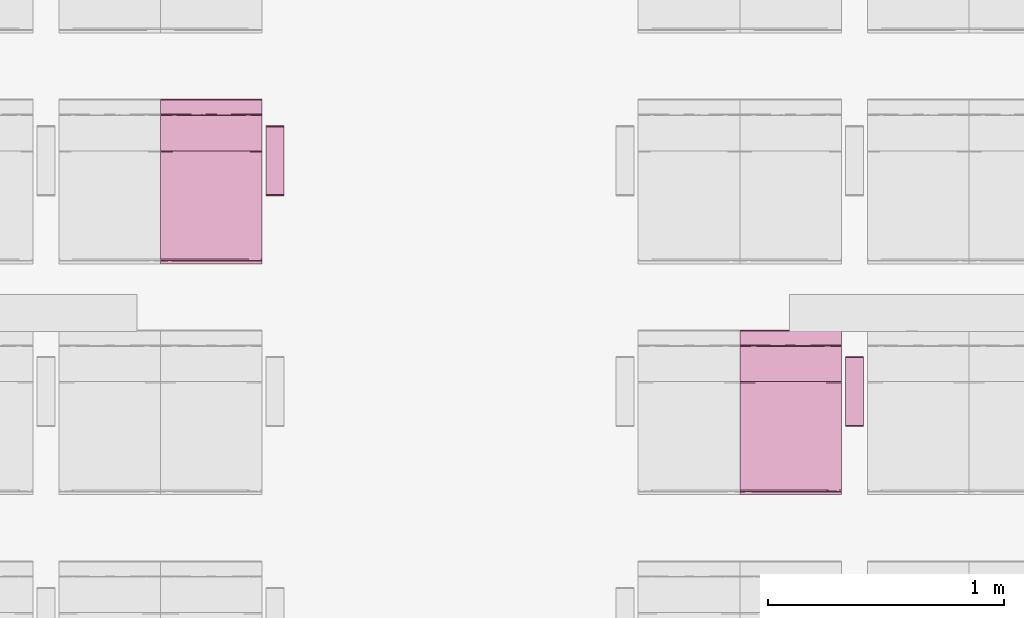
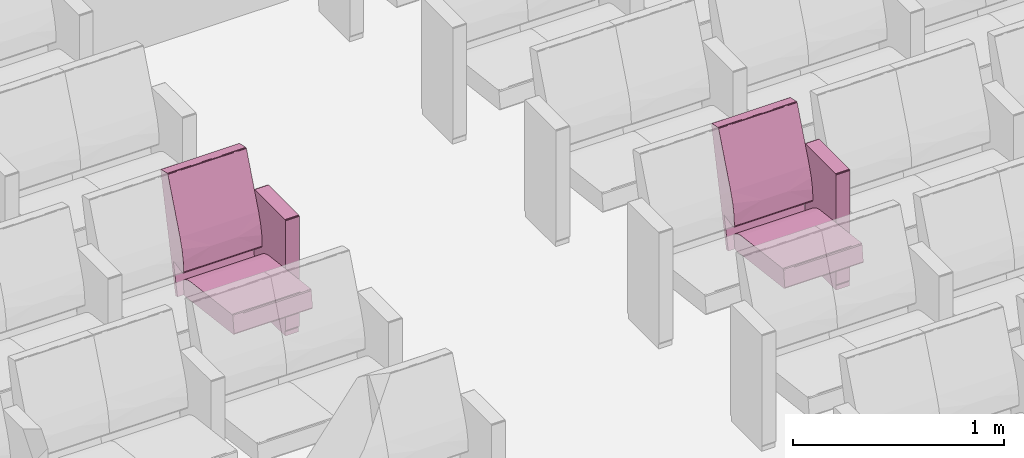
# One storey, part 112 of 155: 2 furnishings.
"""IFC2X3 building model written with IfcOpenShell, lengths in metres."""

import ifcopenshell
import ifcopenshell.guid

model = None  # the IFC model being written
_history = None  # IfcOwnerHistory: only IFC2X3 demands one
_inside = {}  # id of a spatial element -> (the spatial element, [elements in it])
_under = {}  # id of a project, library or spatial element -> (it, [spatial elements below it])
_declared = {}  # id of a project -> (the project, [libraries it declares])
_typed = {}  # id of a type object -> (the type object, [elements of that type])
_made_of = {}  # id of a material, layer set ... -> (it, [elements and type objects made of it])


def new_model(schema):
    """Start an empty IFC model of exactly this schema.

    Asked for "IFC4X3", IfcOpenShell would pick the latest addendum, in which some entities
    have other attributes; the version numbers below select the first issue.
    IFC2X3 requires an IfcOwnerHistory on every rooted entity: one is made here for all.
    """
    global model, _history
    if schema == "IFC4X3":
        model = ifcopenshell.file(schema_version=(4, 3, 0, 0))
    else:
        model = ifcopenshell.file(schema=schema)
    _inside.clear()
    _under.clear()
    _declared.clear()
    _typed.clear()
    _made_of.clear()
    _history = None
    if model.schema == "IFC2X3":
        org = make("IfcOrganization", Name="unknown")
        user = make(
            "IfcPersonAndOrganization",
            ThePerson=make("IfcPerson", FamilyName="unknown"),
            TheOrganization=org,
        )
        app = make(
            "IfcApplication",
            ApplicationDeveloper=org,
            Version="unknown",
            ApplicationFullName="unknown",
            ApplicationIdentifier="unknown",
        )
        _history = make(
            "IfcOwnerHistory",
            OwningUser=user,
            OwningApplication=app,
            ChangeAction="ADDED",
            CreationDate=0,
        )
    return model


def make(cls, **values):
    """One entity of the class cls with the attributes given. An attribute that is None is left unset."""
    return model.create_entity(
        cls, **{name: value for name, value in values.items() if value is not None}
    )


def entity(cls, *values):
    """Any entity or typed value of the class cls, its attributes in the order of the schema. None: left unset."""
    e = model.create_entity(cls)
    for i, value in enumerate(values):
        if value is not None:
            e[i] = value
    return e


def rooted(cls, **values):
    """An entity with a GlobalId (a new one), such as an element, a storey or a relation."""
    return make(cls, GlobalId=ifcopenshell.guid.new(), OwnerHistory=_history, **values)


def si_unit(unit_type, name, prefix=None):
    """IfcSIUnit, for example si_unit("LENGTHUNIT", "METRE", prefix="MILLI")."""
    return make("IfcSIUnit", UnitType=unit_type, Prefix=prefix, Name=name)


def converted_unit(unit_type, name, factor, base, dimensions=None, offset=None):
    """IfcConversionBasedUnit, such as the inch: factor (a typed value) times the base unit."""
    return make(
        "IfcConversionBasedUnit"
        if offset is None
        else "IfcConversionBasedUnitWithOffset",
        ConversionOffset=offset,
        Dimensions=None
        if dimensions is None
        else entity("IfcDimensionalExponents", *dimensions),
        UnitType=unit_type,
        Name=name,
        ConversionFactor=make(
            "IfcMeasureWithUnit", ValueComponent=factor, UnitComponent=base
        ),
    )


def derived_unit(unit_type, elements):
    """IfcDerivedUnit: a product of units, each with its exponent."""
    return make(
        "IfcDerivedUnit",
        Elements=[
            make("IfcDerivedUnitElement", Unit=unit, Exponent=power)
            for unit, power in elements
        ],
        UnitType=unit_type,
    )


def assignment(units):
    """IfcUnitAssignment: the units of a project."""
    return None if units is None else make("IfcUnitAssignment", Units=units)


def point(xyz):
    """IfcCartesianPoint."""
    return None if xyz is None else make("IfcCartesianPoint", Coordinates=xyz)


def direction(xyz):
    """IfcDirection."""
    return None if xyz is None else make("IfcDirection", DirectionRatios=xyz)


def frame(location, z_axis=None, x_axis=None):
    """IfcAxis2Placement3D, a coordinate frame: its origin and axes. An axis left out is left unset."""
    return make(
        "IfcAxis2Placement3D",
        Location=point(location),
        Axis=direction(z_axis),
        RefDirection=direction(x_axis),
    )


def origin():
    """The frame at (0, 0, 0) with its axes left unset."""
    return frame((0.0, 0.0, 0.0))


def place(relative_to, where):
    """IfcLocalPlacement: puts the frame where relative to a parent placement (None: the world)."""
    return make(
        "IfcLocalPlacement", PlacementRelTo=relative_to, RelativePlacement=where
    )


def context(
    kind, dimensions, precision=None, world=None, true_north=None, identifier=None
):
    """IfcGeometricRepresentationContext, for example the 3D "Model" context."""
    return make(
        "IfcGeometricRepresentationContext",
        ContextIdentifier=identifier,
        ContextType=kind,
        CoordinateSpaceDimension=dimensions,
        Precision=precision,
        WorldCoordinateSystem=world,
        TrueNorth=true_north,
    )


def subcontext(parent, identifier, kind, view, scale=None):
    """IfcGeometricRepresentationSubContext, for example "Body" below "Model"."""
    return make(
        "IfcGeometricRepresentationSubContext",
        ContextIdentifier=identifier,
        ContextType=kind,
        ParentContext=parent,
        TargetScale=scale,
        TargetView=view,
    )


def project(units=None, contexts=None):
    """IfcProject with its units and contexts."""
    return rooted(
        "IfcProject",
        Name="project",
        RepresentationContexts=contexts,
        UnitsInContext=assignment(units),
    )


def spatial(cls, under=None, at=None, **own):
    """A site, building, storey or space (cls), placed at a placement, below another one or the project."""
    s = rooted(cls, ObjectPlacement=at, **own)
    if under is not None:
        _under.setdefault(under.id(), (under, []))[1].append(s)
    return s


def faces_of(points, faces, orient=None, outer=None):
    """IfcFace entities. A face is a list of loops; a loop is a list of indices into points, from 0.

    orient and outer hold one flag for each loop. By default every Orientation is true, the
    first loop of a face is its IfcFaceOuterBound and the others are IfcFaceBound.
    """
    made = []
    for i, loops in enumerate(faces):
        bounds = []
        for j, loop in enumerate(loops):
            is_outer = j == 0 if outer is None else outer[i][j]
            bounds.append(
                make(
                    "IfcFaceOuterBound" if is_outer else "IfcFaceBound",
                    Bound=make("IfcPolyLoop", Polygon=[points[k] for k in loop]),
                    Orientation=True if orient is None else orient[i][j],
                )
            )
        made.append(make("IfcFace", Bounds=bounds))
    return made


def faceted_brep(points, faces, orient=None, outer=None, voids=None):
    """IfcFacetedBrep: a solid bounded by flat faces; with voids (closed shells), ...WithVoids."""
    shared = [point(p) for p in points]
    hull = make("IfcClosedShell", CfsFaces=faces_of(shared, faces, orient, outer))
    if voids is None:
        return make("IfcFacetedBrep", Outer=hull)
    return make(
        "IfcFacetedBrepWithVoids",
        Outer=hull,
        Voids=[
            make(cls, CfsFaces=faces_of(shared, fs, o, b)) for cls, fs, o, b in voids
        ],
    )


def shape(context_of_items, identifier, shape_type, items):
    """IfcShapeRepresentation: the items that make up one representation, for example the "Body"."""
    return make(
        "IfcShapeRepresentation",
        ContextOfItems=context_of_items,
        RepresentationIdentifier=identifier,
        RepresentationType=shape_type,
        Items=items,
    )


def source(mapping_origin, context_of_items, identifier, shape_type, items):
    """IfcRepresentationMap: a shape defined once, which mapped items show again and again."""
    return make(
        "IfcRepresentationMap",
        MappingOrigin=mapping_origin,
        MappedRepresentation=shape(context_of_items, identifier, shape_type, items),
    )


def transform(
    local_origin,
    x_axis=None,
    y_axis=None,
    z_axis=None,
    scale=None,
    scale2=None,
    scale3=None,
    uniform=True,
):
    """IfcCartesianTransformationOperator3D, or its non-uniform kind. x_axis, y_axis, z_axis: its Axis1, 2, 3."""
    if uniform:
        return make(
            "IfcCartesianTransformationOperator3D",
            Axis1=direction(x_axis),
            Axis2=direction(y_axis),
            LocalOrigin=point(local_origin),
            Scale=scale,
            Axis3=direction(z_axis),
        )
    return make(
        "IfcCartesianTransformationOperator3DnonUniform",
        Axis1=direction(x_axis),
        Axis2=direction(y_axis),
        LocalOrigin=point(local_origin),
        Scale=scale,
        Axis3=direction(z_axis),
        Scale2=scale2,
        Scale3=scale3,
    )


def mapped(mapping_source, mapping_target):
    """IfcMappedItem: shows the shape of a source again, moved by a transform."""
    return make(
        "IfcMappedItem", MappingSource=mapping_source, MappingTarget=mapping_target
    )


def material(Name=None, Category=None):
    """IfcMaterial."""
    return make("IfcMaterial", Name=Name, Category=Category)


def material_list(materials):
    """IfcMaterialList."""
    return make("IfcMaterialList", Materials=materials)


def made_of(thing, what):
    """Note that an element or type object is made of a material, layer set ...; save() writes the relation."""
    if what is not None:
        _made_of.setdefault(what.id(), (what, []))[1].append(thing)
    return thing


def type_object(cls, material=None, **own):
    """A type object (cls), such as IfcWallType, which elements share."""
    return made_of(rooted(cls, **own), material)


def type_shapes(of_type, sources):
    """Give a type object the sources (RepresentationMaps) that its elements show as mapped items."""
    of_type.RepresentationMaps = sources


def element(
    cls,
    number,
    at=None,
    inside=None,
    cuts=None,
    type_object=None,
    material=None,
    context=None,
    identifier="Body",
    shape_type=None,
    held_by="IfcProductDefinitionShape",
    body=None,
    shapes=None,
    **own,
):
    """One element of the class cls, such as IfcWall. Its Tag is "e" and its number.

    at: its placement. inside: the storey or other place that contains it. cuts: it is an
    opening in that element (IfcRelVoidsElement). A single representation is given by context,
    identifier, shape_type and body (its items); several are given by shapes. held_by: the class
    of the entity that holds the representations. save() writes the other relations.
    """
    e = rooted(cls, Tag="e%d" % number, ObjectPlacement=at, **own)
    if body is not None:
        shapes = [shape(context, identifier, shape_type, body)]
    if shapes is not None:
        e.Representation = make(held_by, Representations=shapes)
    if inside is not None:
        _inside.setdefault(inside.id(), (inside, []))[1].append(e)
    if cuts is not None:
        rooted(
            "IfcRelVoidsElement", RelatingBuildingElement=cuts, RelatedOpeningElement=e
        )
    if type_object is not None:
        _typed.setdefault(type_object.id(), (type_object, []))[1].append(e)
    return made_of(e, material)


def aggregate(whole, parts):
    """IfcRelAggregates: a whole, such as a stair, and the parts it consists of."""
    return rooted("IfcRelAggregates", RelatingObject=whole, RelatedObjects=parts)


def save(model, path):
    """Write the relations noted so far, then the file.

    IfcRelAggregates (storeys below a building ...), IfcRelContainedInSpatialStructure (elements
    in a storey), IfcRelDefinesByType, IfcRelAssociatesMaterial and IfcRelDeclares: one each for
    every whole, place, type object, material and project.
    """
    for whole, parts in _under.values():
        aggregate(whole, parts)
    for where, things in _inside.values():
        rooted(
            "IfcRelContainedInSpatialStructure",
            RelatedElements=things,
            RelatingStructure=where,
        )
    for kind, things in _typed.values():
        rooted("IfcRelDefinesByType", RelatedObjects=things, RelatingType=kind)
    for what, things in _made_of.values():
        rooted("IfcRelAssociatesMaterial", RelatedObjects=things, RelatingMaterial=what)
    for by, libraries in _declared.values():
        rooted("IfcRelDeclares", RelatingContext=by, RelatedDefinitions=libraries)
    model.write(path)


model = new_model("IFC2X3")

# Units and contexts
model_context = context("Model", 3, precision=1e-05, world=origin(), true_north=direction((6.12303176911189e-17, 1.0)))
body_context = subcontext(model_context, "Body", "Model", "MODEL_VIEW")
ifc_project = project(units=[si_unit("LENGTHUNIT", "METRE"), si_unit("AREAUNIT", "SQUARE_METRE"), si_unit("VOLUMEUNIT", "CUBIC_METRE"), converted_unit("PLANEANGLEUNIT", "DEGREE", entity("IfcRatioMeasure", 0.0174532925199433), si_unit("PLANEANGLEUNIT", "RADIAN"), dimensions=[0, 0, 0, 0, 0, 0, 0]), si_unit("MASSUNIT", "GRAM", prefix="KILO"), derived_unit("MASSDENSITYUNIT", [(si_unit("MASSUNIT", "GRAM", prefix="KILO"), 1), (si_unit("LENGTHUNIT", "METRE"), -3)]), si_unit("TIMEUNIT", "SECOND"), si_unit("FREQUENCYUNIT", "HERTZ"), si_unit("THERMODYNAMICTEMPERATUREUNIT", "DEGREE_CELSIUS"), derived_unit("THERMALTRANSMITTANCEUNIT", [(si_unit("MASSUNIT", "GRAM", prefix="KILO"), 1), (si_unit("THERMODYNAMICTEMPERATUREUNIT", "KELVIN"), -1), (si_unit("TIMEUNIT", "SECOND"), -3)]), derived_unit("VOLUMETRICFLOWRATEUNIT", [(si_unit("LENGTHUNIT", "METRE"), 3), (si_unit("TIMEUNIT", "SECOND"), -1)]), si_unit("ELECTRICCURRENTUNIT", "AMPERE"), si_unit("ELECTRICVOLTAGEUNIT", "VOLT"), si_unit("POWERUNIT", "WATT"), si_unit("FORCEUNIT", "NEWTON", prefix="KILO"), si_unit("ILLUMINANCEUNIT", "LUX"), si_unit("LUMINOUSFLUXUNIT", "LUMEN"), si_unit("LUMINOUSINTENSITYUNIT", "CANDELA"), derived_unit("USERDEFINED", [(si_unit("MASSUNIT", "GRAM", prefix="KILO"), -1), (si_unit("LENGTHUNIT", "METRE"), -2), (si_unit("TIMEUNIT", "SECOND"), 3), (si_unit("LUMINOUSFLUXUNIT", "LUMEN"), 1)]), derived_unit("LINEARVELOCITYUNIT", [(si_unit("LENGTHUNIT", "METRE"), 1), (si_unit("TIMEUNIT", "SECOND"), -1)]), si_unit("PRESSUREUNIT", "PASCAL"), derived_unit("USERDEFINED", [(si_unit("LENGTHUNIT", "METRE"), -2), (si_unit("MASSUNIT", "GRAM", prefix="KILO"), 1), (si_unit("TIMEUNIT", "SECOND"), -2)])], contexts=[model_context])

# Site, building, storey, space
site_placement = place(None, frame((26.9889013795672, -17.5624287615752, 0.0)))
site = spatial("IfcSite", under=ifc_project, at=site_placement, Name="Default", CompositionType="ELEMENT")
building_placement = place(site_placement, origin())
building = spatial("IfcBuilding", under=site, at=building_placement, Name="C. C. L. Monsenhor Antônio Sampaio", CompositionType="ELEMENT")
storey_placement = place(building_placement, frame((0.0, 0.0, 1.19999999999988)))
storey = spatial("IfcBuildingStorey", under=building, at=storey_placement, Name="Nível 1.2", CompositionType="ELEMENT", Elevation=1.19999999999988)
space_placement = place(storey_placement, origin())
space = spatial("IfcSpace", under=storey, at=space_placement, Name="94", CompositionType="ELEMENT", InteriorOrExteriorSpace="INTERNAL")

# Furnishings
ifc_material_1 = material(Name="V9 - V9 - Ecopelle_672_658")
ifc_material_2 = material(Name="V9 - V9 - RAL_9006_Grigio")
ifc_material_list_1 = material_list([ifc_material_1, ifc_material_2])
ifc_material_list_2 = material_list([ifc_material_1, ifc_material_2])
furniture_type = type_object("IfcFurnitureType", Name="Cadeira auditório", material=ifc_material_list_2)
shared_shape = source(origin(), body_context, "Body", "Brep", [
    faceted_brep([(0.405536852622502, -0.1075, 0.339809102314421), (0.410560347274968, -0.131924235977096, 0.34246450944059), (0.405536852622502, -0.156348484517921, 0.339809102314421), (0.41079981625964, -0.0179166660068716, 0.342749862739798), (0.410597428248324, -0.084060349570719, 0.342506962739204), (0.405536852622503, -0.0537499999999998, 0.339809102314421), (0.410248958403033, -0.173608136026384, 0.342130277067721), (0.405536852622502, -0.215, 0.339809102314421), (0.412515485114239, -0.143333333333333, 0.348529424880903), (0.412515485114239, -0.185674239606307, 0.348529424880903), (0.405536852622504, 0.1075, 0.33980910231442), (0.405536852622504, 0.156348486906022, 0.33980910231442), (0.410560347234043, 0.131924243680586, 0.342464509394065), (0.405536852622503, 0.0, 0.33980910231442), (0.411170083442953, 0.0341365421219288, 0.343251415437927), (0.41251548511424, 0.0, 0.348529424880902), (0.412515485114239, -0.0358333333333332, 0.348529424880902), (0.412515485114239, -0.0716666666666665, 0.348529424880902), (0.41251548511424, 0.143333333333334, 0.348529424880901), (0.41059742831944, 0.0840603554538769, 0.342506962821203), (0.405536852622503, 0.0537500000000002, 0.33980910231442), (0.410248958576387, 0.173608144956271, 0.342130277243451), (0.410799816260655, 0.215, 0.342749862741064), (0.412515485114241, 0.185674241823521, 0.348529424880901), (0.412515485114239, -0.215, 0.348529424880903), (0.410799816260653, -0.215, 0.342749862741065), (0.412515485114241, 0.215, 0.348529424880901), (0.41251548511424, 0.0716666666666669, 0.348529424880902), (0.405536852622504, 0.215, 0.33980910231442), (-0.0557900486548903, -0.215, 0.28268145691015), (-0.0557900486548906, -0.1881249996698, 0.282681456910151), (-0.0557900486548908, -0.161250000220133, 0.282681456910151), (-0.055790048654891, -0.134374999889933, 0.282681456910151), (-0.0557900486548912, -0.107499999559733, 0.282681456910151), (-0.0557900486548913, -0.0806250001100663, 0.282681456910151), (-0.0557900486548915, -0.0537499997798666, 0.282681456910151), (-0.0557900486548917, -0.0268749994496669, 0.282681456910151), (-0.0557900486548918, 0.0, 0.28268145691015), (-0.0557900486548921, 0.0268750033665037, 0.282681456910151), (-0.0557900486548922, 0.0537499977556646, 0.282681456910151), (-0.0557900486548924, 0.0806249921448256, 0.282681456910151), (-0.0557900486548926, 0.107499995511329, 0.282681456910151), (-0.0557900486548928, 0.138065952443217, 0.282681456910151), (-0.055790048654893, 0.168631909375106, 0.282681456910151), (-0.0557900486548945, 0.215, 0.28268145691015), (-0.0594787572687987, -0.0179017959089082, 0.283700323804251), (-0.0613666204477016, 0.0, 0.287029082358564), (-0.0594787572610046, 0.0152829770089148, 0.283700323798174), (-0.0594787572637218, -0.215, 0.283700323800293), (-0.0613666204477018, -0.215, 0.287029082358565), (-0.0613666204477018, -0.191815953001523, 0.287029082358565), (-0.0613666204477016, -0.030565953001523, 0.287029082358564), (-0.0593340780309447, -0.0671874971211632, 0.283591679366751), (-0.0593337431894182, 0.184174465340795, 0.283591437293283), (-0.0594787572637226, 0.215, 0.283700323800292), (-0.0593023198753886, 0.0940625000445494, 0.283568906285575), (-0.0613666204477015, 0.0611319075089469, 0.287029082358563), (-0.0613666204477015, 0.0916978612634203, 0.287029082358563), (-0.0613666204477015, 0.122263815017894, 0.287029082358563), (-0.0597338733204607, -0.147039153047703, 0.283913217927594), (-0.0613666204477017, -0.122263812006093, 0.287029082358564), (-0.059382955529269, -0.118123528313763, 0.28362747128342), (-0.0592501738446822, -0.180223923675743, 0.283532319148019), (-0.0613666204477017, -0.168631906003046, 0.287029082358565), (-0.0588783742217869, -0.0926899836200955, 0.283298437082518), (-0.0613666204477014, 0.168631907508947, 0.287029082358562), (-0.0613666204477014, 0.215, 0.287029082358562), (-0.0592576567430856, 0.123736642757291, 0.283537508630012), (-0.0594787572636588, 0.153348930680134, 0.283700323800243), (-0.0613666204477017, -0.0916978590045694, 0.287029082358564), (-0.0613666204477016, 0.0305659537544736, 0.287029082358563), (-0.059645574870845, 0.045848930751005, 0.283836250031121), (-0.0613666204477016, -0.0611319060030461, 0.287029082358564), (-0.0693403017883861, 0.143333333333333, 0.351419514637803), (-0.069340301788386, 0.215, 0.351419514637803), (-0.0693403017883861, -0.215, 0.351419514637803), (-0.0693403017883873, -0.143333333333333, 0.351419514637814), (-0.069340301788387, -0.0716666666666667, 0.351419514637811), (-0.0693403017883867, 0.0, 0.351419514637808), (-0.0693403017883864, 0.0716666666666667, 0.351419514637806), (-0.0653387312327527, -0.0126787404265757, 0.368680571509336), (-0.0645543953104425, -0.112272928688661, 0.369803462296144), (-0.0597085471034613, 0.0, 0.37476954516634), (-0.0655136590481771, 0.104400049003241, 0.368411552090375), (-0.0681665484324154, 0.0888707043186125, 0.36292533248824), (-0.0694879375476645, -0.0590582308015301, 0.356377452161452), (-0.0695056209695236, 0.125492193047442, 0.356093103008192), (-0.0597085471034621, 0.110316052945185, 0.374769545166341), (-0.0676206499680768, -0.215, 0.364371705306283), (-0.0672851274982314, -0.108066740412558, 0.365148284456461), (-0.0690003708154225, -0.132942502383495, 0.359900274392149), (-0.068624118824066, -0.215, 0.356813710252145), (-0.0686241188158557, 0.214999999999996, 0.356813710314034), (-0.0694502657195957, 0.0358333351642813, 0.356863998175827), (-0.0686999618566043, -0.035833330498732, 0.36116674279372), (-0.067620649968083, 0.214999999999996, 0.364371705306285), (-0.063664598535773, 0.214999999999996, 0.369570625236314), (-0.0597085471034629, 0.214999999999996, 0.374769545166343), (-0.0597085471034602, -0.110316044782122, 0.374769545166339), (-0.0636645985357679, -0.215, 0.36957062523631), (-0.0597085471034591, -0.215, 0.374769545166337), (-0.0018793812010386, -0.215, 0.398686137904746), (-0.0324117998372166, -0.0436847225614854, 0.39063968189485), (-0.0324117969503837, -0.215, 0.390639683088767), (-0.041847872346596, 0.0856576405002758, 0.386239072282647), (-0.00187938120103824, 0.102488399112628, 0.398686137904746), (-0.00187938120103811, 0.215, 0.398686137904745), (-0.0324117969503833, 0.215, 0.390639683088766), (-0.0219042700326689, 0.0570631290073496, 0.394412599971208), (-0.00187938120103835, 0.0, 0.398686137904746), (0.392202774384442, -0.215, 0.447486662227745), (0.392202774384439, -0.156349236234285, 0.447486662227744), (0.392202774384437, -0.107499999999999, 0.447486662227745), (0.392202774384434, -0.0537499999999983, 0.447486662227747), (0.392202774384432, 0.0, 0.447486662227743), (0.392202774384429, 0.0537500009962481, 0.44748666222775), (0.392202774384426, 0.107500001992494, 0.447486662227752), (0.392202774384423, 0.156349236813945, 0.447486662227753), (0.392202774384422, 0.215, 0.447486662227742), (0.397860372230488, 0.0827732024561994, 0.446039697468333), (0.401125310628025, 0.0976984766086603, 0.440530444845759), (0.398104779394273, 0.131924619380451, 0.445856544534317), (0.397373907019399, 0.173462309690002, 0.446363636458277), (0.401125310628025, 0.156349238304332, 0.440530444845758), (0.401125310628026, 0.215000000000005, 0.440530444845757), (0.398104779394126, 0.215000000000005, 0.445856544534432), (0.397860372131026, -0.0827731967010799, 0.446039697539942), (0.398104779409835, -0.131924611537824, 0.445856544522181), (0.398104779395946, -0.0268749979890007, 0.445856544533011), (0.398104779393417, 0.0237489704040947, 0.445856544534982), (0.401125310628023, -0.0488492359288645, 0.440530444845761), (0.401125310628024, 0.0488492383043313, 0.44053044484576), (0.398774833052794, -0.173462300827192, 0.445271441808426), (0.401125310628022, -0.0976984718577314, 0.440530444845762), (0.39810477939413, -0.215, 0.445856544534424), (0.401125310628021, -0.215, 0.440530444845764), (0.401125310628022, -0.156349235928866, 0.440530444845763), (0.401125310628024, 0.0, 0.44053044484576)], [[[0, 1, 2]], [[3, 4, 5]], [[2, 6, 7]], [[8, 9, 6]], [[10, 11, 12]], [[13, 3, 5]], [[3, 14, 15]], [[1, 4, 8]], [[6, 1, 8]], [[4, 3, 16]], [[16, 17, 8, 4]], [[12, 18, 19]], [[4, 1, 0]], [[20, 14, 13]], [[21, 22, 23]], [[15, 16, 3]], [[9, 24, 25]], [[26, 23, 22]], [[7, 6, 25]], [[12, 11, 21]], [[19, 14, 20]], [[4, 0, 5]], [[14, 27, 15]], [[13, 14, 3]], [[19, 18, 27]], [[19, 10, 12]], [[18, 21, 23]], [[10, 19, 20]], [[19, 27, 14]], [[2, 1, 6]], [[21, 11, 28]], [[25, 6, 9]], [[18, 12, 21]], [[22, 21, 28]], [[28, 11, 10, 20, 13, 5, 0, 2, 7, 29, 30, 31, 32, 33, 34, 35, 36, 37, 38, 39, 40, 41, 42, 43, 44]], [[45, 46, 47]], [[48, 49, 50]], [[51, 45, 52]], [[53, 54, 44]], [[55, 56, 57, 58]], [[59, 60, 61]], [[62, 63, 59]], [[34, 64, 52]], [[53, 65, 66]], [[41, 67, 42]], [[37, 36, 35, 45, 47, 38]], [[43, 42, 68]], [[29, 48, 30]], [[59, 31, 62]], [[62, 48, 50]], [[61, 69, 64]], [[65, 53, 68]], [[50, 63, 62]], [[62, 30, 48]], [[55, 58, 67]], [[32, 31, 59]], [[46, 70, 47]], [[65, 68, 58]], [[55, 40, 71]], [[70, 56, 71]], [[61, 33, 32]], [[59, 63, 60]], [[39, 38, 71, 40]], [[47, 71, 38]], [[51, 46, 45]], [[70, 71, 47]], [[71, 56, 55]], [[40, 55, 41]], [[67, 68, 42]], [[43, 68, 53]], [[43, 53, 44]], [[66, 54, 53]], [[68, 67, 58]], [[55, 67, 41]], [[72, 51, 52, 69]], [[62, 31, 30]], [[59, 61, 32]], [[35, 52, 45]], [[64, 34, 33]], [[34, 52, 35]], [[61, 60, 69]], [[52, 64, 69]], [[61, 64, 33]], [[73, 74, 66, 65, 58, 57, 56, 70, 46, 51, 72, 69, 60, 63, 50, 49, 75, 76, 77, 78, 79]], [[80, 81, 82]], [[83, 84, 80]], [[85, 78, 77, 76]], [[73, 79, 86]], [[80, 82, 83]], [[87, 83, 82]], [[88, 89, 90]], [[76, 75, 91]], [[92, 74, 73]], [[91, 90, 85]], [[80, 89, 81]], [[84, 93, 94]], [[84, 86, 93]], [[93, 78, 85]], [[73, 86, 92]], [[94, 93, 85]], [[95, 92, 84]], [[78, 93, 79]], [[80, 84, 94]], [[83, 96, 95]], [[94, 85, 90]], [[87, 97, 96]], [[98, 99, 100]], [[91, 85, 76]], [[94, 90, 89]], [[90, 91, 88]], [[89, 80, 94]], [[89, 99, 81]], [[89, 88, 99]], [[82, 81, 98]], [[81, 99, 98]], [[92, 86, 84]], [[93, 86, 79]], [[84, 83, 95]], [[96, 83, 87]], [[101, 102, 103]], [[104, 97, 87, 82]], [[105, 106, 107]], [[107, 108, 105]], [[109, 102, 101]], [[82, 102, 104]], [[102, 108, 104]], [[103, 102, 100]], [[97, 104, 107]], [[104, 108, 107]], [[102, 82, 98, 100]], [[105, 108, 109]], [[108, 102, 109]], [[109, 101, 110, 111, 112, 113, 114, 115, 116, 117, 118, 106, 105]], [[119, 120, 121]], [[122, 123, 124]], [[122, 125, 118]], [[126, 113, 112]], [[117, 121, 122]], [[121, 117, 116]], [[112, 111, 127]], [[113, 128, 129, 115, 114]], [[126, 130, 128]], [[129, 131, 119]], [[111, 132, 127]], [[132, 111, 110]], [[133, 126, 127]], [[123, 122, 121]], [[132, 134, 135]], [[127, 132, 136]], [[123, 121, 120]], [[127, 136, 133]], [[129, 128, 130, 137, 131]], [[112, 127, 126]], [[126, 133, 130]], [[119, 121, 116]], [[113, 126, 128]], [[119, 115, 129]], [[119, 116, 115]], [[120, 119, 131]], [[117, 122, 118]], [[124, 125, 122]], [[136, 132, 135]], [[110, 134, 132]], [[137, 130, 133, 136, 135, 24, 9, 8, 17, 16, 15, 27, 18, 23, 26, 124, 123, 120, 131]], [[44, 54, 66, 74, 92, 95, 96, 97, 107, 106, 118, 125, 124, 26, 22, 28]], [[75, 49, 48, 29, 7, 25, 24, 135, 134, 110, 101, 103, 100, 99, 88, 91]]]),
    faceted_brep([(0.119812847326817, 0.27, 0.674900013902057), (0.12334838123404, 0.259944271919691, 0.6734355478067), (0.123144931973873, 0.283972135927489, 0.673627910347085), (0.124812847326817, 0.27, 0.669900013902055), (0.119812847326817, 0.232, 0.674900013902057), (0.12334838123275, 0.232, 0.673435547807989), (0.124812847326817, 0.308, 0.669900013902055), (0.119812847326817, 0.308, 0.674900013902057), (0.124812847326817, 0.249888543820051, 0.669900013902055), (0.124812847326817, 0.232, 0.669900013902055), (0.12334838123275, 0.308, 0.673435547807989), (0.124812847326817, 0.232, 0.0349999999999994), (0.124812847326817, 0.27, 0.035), (0.124812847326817, 0.308, 0.035), (0.12334838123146, 0.25994427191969, 0.0314644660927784), (0.123540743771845, 0.283972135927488, 0.0316679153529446), (0.119812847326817, 0.27, 0.0300000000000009), (0.12334838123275, 0.232, 0.0314644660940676), (0.119812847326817, 0.308, 0.0300000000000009), (0.119812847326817, 0.249888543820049, 0.030000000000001), (0.119812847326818, 0.232, 0.030000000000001), (0.123348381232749, 0.308, 0.0314644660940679), (-0.167179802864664, 0.27, 0.0300000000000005), (-0.167179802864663, 0.308, 0.0300000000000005), (-0.167179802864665, 0.232, 0.0300000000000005), (-0.170715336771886, 0.25994427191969, 0.0314644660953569), (-0.17051188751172, 0.283972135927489, 0.0312721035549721), (-0.172179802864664, 0.27, 0.0350000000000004), (-0.170715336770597, 0.232, 0.0314644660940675), (-0.172179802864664, 0.308, 0.0350000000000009), (-0.172179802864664, 0.24988854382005, 0.0350000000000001), (-0.172179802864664, 0.232, 0.0349999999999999), (-0.170715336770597, 0.308, 0.0314644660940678), (-0.172179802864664, 0.308, 0.669900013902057), (-0.172179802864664, 0.232, 0.669900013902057), (-0.172179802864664, 0.27, 0.669900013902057), (-0.170715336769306, 0.259944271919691, 0.673435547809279), (-0.170907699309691, 0.283972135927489, 0.673232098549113), (-0.167179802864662, 0.27, 0.674900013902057), (-0.170715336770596, 0.232, 0.67343554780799), (-0.167179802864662, 0.308, 0.674900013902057), (-0.167179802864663, 0.249888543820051, 0.674900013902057), (-0.167179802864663, 0.232, 0.674900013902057), (-0.170715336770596, 0.308, 0.67343554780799)], [[[0, 1, 2]], [[3, 2, 1]], [[0, 4, 5, 1]], [[2, 3, 6]], [[0, 2, 7]], [[8, 3, 1, 5, 9]], [[7, 2, 10]], [[6, 10, 2]], [[9, 11, 12, 13, 6, 3, 8]], [[12, 14, 15]], [[16, 15, 14]], [[12, 11, 17, 14]], [[15, 16, 18]], [[12, 15, 13]], [[19, 16, 14, 17, 20]], [[13, 15, 21]], [[18, 21, 15]], [[22, 23, 18, 16, 19, 20, 24]], [[22, 25, 26]], [[27, 26, 25]], [[22, 24, 28, 25]], [[26, 27, 29]], [[22, 26, 23]], [[30, 27, 25, 28, 31]], [[23, 26, 32]], [[29, 32, 26]], [[33, 29, 27, 30, 31, 34, 35]], [[35, 36, 37]], [[38, 37, 36]], [[35, 34, 39, 36]], [[37, 38, 40]], [[35, 37, 33]], [[41, 38, 36, 39, 42]], [[33, 37, 43]], [[40, 43, 37]], [[0, 7, 40, 38, 41, 42, 4]], [[42, 39, 34, 31, 28, 24, 20, 17, 11, 9, 5, 4]], [[23, 32, 29, 33, 43, 40, 7, 10, 6, 13, 21, 18]]]),
    faceted_brep([(-0.0655618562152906, -0.215, 0.415143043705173), (-0.0744051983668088, -0.0524423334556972, 0.506888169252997), (-0.0695672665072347, -0.215, 0.476508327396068), (-0.0655618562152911, 0.0, 0.415143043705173), (-0.0744051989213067, 0.0780075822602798, 0.506888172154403), (-0.0655618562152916, 0.1075, 0.415143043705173), (-0.0655618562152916, 0.215, 0.415143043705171), (-0.0655618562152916, -0.1075, 0.415143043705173), (-0.0695672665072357, 0.215, 0.476508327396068), (-0.0811110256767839, 0.215, 0.536911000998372), (-0.0811110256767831, -0.215, 0.536911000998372), (-0.100016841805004, 0.0, 0.595428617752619), (-0.100016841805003, -0.215, 0.595428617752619), (-0.100016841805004, 0.215, 0.595428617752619), (-0.0792851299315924, -0.0716666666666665, 0.404772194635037), (-0.0792851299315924, 0.0, 0.404772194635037), (-0.0698317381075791, -0.0358333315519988, 0.406528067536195), (-0.0698317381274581, 0.215, 0.406528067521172), (-0.0792851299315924, 0.143333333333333, 0.404772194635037), (-0.0792851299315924, 0.215, 0.404772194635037), (-0.0698317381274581, -0.215, 0.406528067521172), (-0.0792851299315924, -0.215, 0.404772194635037), (-0.0792851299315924, -0.143333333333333, 0.404772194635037), (-0.0694171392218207, -0.140338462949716, 0.406857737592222), (-0.0708115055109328, 0.0356393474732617, 0.405868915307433), (-0.0703502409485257, 0.107500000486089, 0.406159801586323), (-0.0792851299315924, 0.0716666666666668, 0.404772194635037), (-0.163837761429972, 0.215, 0.420611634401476), (-0.163837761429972, -0.215, 0.420611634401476), (-0.123612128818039, -0.215, 0.235917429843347), (-0.123612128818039, 0.215, 0.235917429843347), (-0.142059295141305, -0.215, 0.231899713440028), (-0.142059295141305, 0.215, 0.231899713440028), (-0.235388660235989, -0.215, 0.652619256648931), (-0.235388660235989, 0.215, 0.652619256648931), (-0.28428001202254, 0.0, 0.873004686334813), (-0.284280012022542, 0.0268749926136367, 0.873004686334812), (-0.284280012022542, 0.0537499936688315, 0.873004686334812), (-0.284280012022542, 0.0806249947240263, 0.873004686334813), (-0.284280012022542, 0.107499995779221, 0.873004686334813), (-0.284280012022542, 0.134374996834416, 0.873004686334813), (-0.284280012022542, 0.161249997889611, 0.873004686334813), (-0.284280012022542, 0.191295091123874, 0.873004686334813), (-0.28428001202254, 0.215, 0.873004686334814), (-0.284280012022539, -0.215, 0.873004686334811), (-0.28428001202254, -0.191295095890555, 0.873004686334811), (-0.284280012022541, -0.161249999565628, 0.873004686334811), (-0.284280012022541, -0.134374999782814, 0.873004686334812), (-0.284280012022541, -0.1075, 0.873004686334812), (-0.284280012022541, -0.0806250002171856, 0.873004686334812), (-0.284280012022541, -0.0537500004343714, 0.873004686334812), (-0.284280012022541, -0.0268749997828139, 0.873004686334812), (-0.283504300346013, -0.0569644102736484, 0.877068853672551), (-0.283746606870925, -0.0872244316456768, 0.876674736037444), (-0.283641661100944, 0.12093750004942, 0.876855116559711), (-0.283567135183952, 0.15546176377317, 0.876973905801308), (-0.28330409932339, -0.185293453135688, 0.877344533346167), (-0.283567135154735, -0.155461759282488, 0.876973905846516), (-0.280514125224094, 0.0, 0.879190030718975), (-0.280514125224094, 0.0358333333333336, 0.879190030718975), (-0.283641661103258, 0.0136463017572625, 0.876855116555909), (-0.283641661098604, -0.0179166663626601, 0.876855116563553), (-0.280514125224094, -0.0358333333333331, 0.879190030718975), (-0.280514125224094, 0.1075, 0.879190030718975), (-0.280514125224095, 0.143333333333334, 0.879190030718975), (-0.283746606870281, 0.0872244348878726, 0.876674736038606), (-0.280514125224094, 0.071666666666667, 0.879190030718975), (-0.280514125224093, -0.1075, 0.879190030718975), (-0.280514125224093, -0.0716666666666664, 0.879190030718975), (-0.280514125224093, -0.143333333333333, 0.879190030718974), (-0.283641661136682, -0.120937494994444, 0.876855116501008), (-0.283641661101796, -0.215, 0.876855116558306), (-0.283641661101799, 0.215, 0.876855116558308), (-0.280514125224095, 0.167590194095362, 0.879190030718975), (-0.283304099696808, 0.18529345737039, 0.877344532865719), (-0.280514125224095, 0.215, 0.879190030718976), (-0.280514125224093, -0.167590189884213, 0.879190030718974), (-0.280514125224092, -0.215, 0.879190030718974), (-0.283504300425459, 0.0569644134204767, 0.8770688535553), (-0.221112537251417, -0.215, 0.892176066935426), (-0.221112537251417, -0.19181594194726, 0.892176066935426), (-0.221112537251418, -0.16124999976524, 0.892176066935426), (-0.221112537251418, -0.13437499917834, 0.892176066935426), (-0.221112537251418, -0.10749999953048, 0.892176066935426), (-0.221112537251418, -0.08062499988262, 0.892176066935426), (-0.221112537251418, -0.0537500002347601, 0.892176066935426), (-0.221112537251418, -0.0268750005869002, 0.892176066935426), (-0.221112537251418, 0.0, 0.892176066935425), (-0.221112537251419, 0.0268750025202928, 0.892176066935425), (-0.221112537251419, 0.053749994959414, 0.892176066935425), (-0.221112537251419, 0.0806249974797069, 0.892176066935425), (-0.221112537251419, 0.1075, 0.892176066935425), (-0.221112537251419, 0.134375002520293, 0.892176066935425), (-0.221112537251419, 0.161250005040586, 0.892176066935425), (-0.221112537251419, 0.191815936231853, 0.892176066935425), (-0.221112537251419, 0.215, 0.892176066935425), (-0.217722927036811, -0.0162353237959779, 0.891719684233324), (-0.215419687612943, -0.0358333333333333, 0.889191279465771), (-0.215419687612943, 0.0, 0.889191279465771), (-0.217722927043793, 0.0134375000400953, 0.891719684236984), (-0.217722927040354, 0.120937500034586, 0.89171968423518), (-0.217722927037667, 0.0912646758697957, 0.891719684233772), (-0.215419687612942, 0.0716666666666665, 0.88919127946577), (-0.215419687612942, 0.1075, 0.88919127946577), (-0.215419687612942, 0.143333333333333, 0.88919127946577), (-0.217722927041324, 0.215, 0.891719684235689), (-0.217722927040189, 0.182482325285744, 0.891719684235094), (-0.215419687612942, 0.168631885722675, 0.889191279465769), (-0.215419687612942, 0.191815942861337, 0.889191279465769), (-0.215419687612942, 0.215, 0.889191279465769), (-0.217722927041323, -0.215, 0.89171968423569), (-0.215419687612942, -0.215, 0.889191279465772), (-0.215419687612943, -0.191815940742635, 0.889191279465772), (-0.217722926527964, -0.190103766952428, 0.891719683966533), (-0.2179983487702, 0.039082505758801, 0.891853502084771), (-0.217816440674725, 0.0647800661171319, 0.891767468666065), (-0.217558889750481, 0.155982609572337, 0.891629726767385), (-0.217722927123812, -0.120937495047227, 0.891719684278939), (-0.217558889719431, -0.15598260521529, 0.891629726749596), (-0.215419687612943, -0.143333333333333, 0.889191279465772), (-0.215419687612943, -0.16863188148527, 0.889191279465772), (-0.215419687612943, -0.0716666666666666, 0.889191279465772), (-0.217816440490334, -0.0647800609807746, 0.891767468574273), (-0.217722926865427, -0.0912646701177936, 0.891719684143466), (-0.215419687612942, 0.0358333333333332, 0.889191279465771), (-0.215419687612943, -0.1075, 0.889191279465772), (-0.218257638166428, -0.0404491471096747, 0.891961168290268)], [[[0, 1, 2]], [[3, 4, 1]], [[4, 3, 5, 6]], [[1, 0, 7, 3]], [[8, 4, 6]], [[9, 4, 8]], [[1, 10, 2]], [[1, 11, 12]], [[9, 13, 4]], [[13, 11, 4]], [[10, 1, 12]], [[11, 1, 4]], [[14, 15, 16]], [[17, 18, 19]], [[20, 21, 22]], [[20, 23, 0]], [[3, 7, 16]], [[15, 24, 16]], [[24, 25, 5]], [[22, 23, 20]], [[7, 23, 16]], [[6, 5, 17]], [[16, 24, 3]], [[16, 23, 14]], [[23, 22, 14]], [[18, 25, 26]], [[18, 17, 25]], [[26, 24, 15]], [[7, 0, 23]], [[5, 25, 17]], [[25, 24, 26]], [[3, 24, 5]], [[27, 19, 18, 26, 15, 14, 22, 21, 28]], [[27, 28, 29, 30]], [[31, 32, 30, 29]], [[33, 34, 32, 31]], [[35, 36, 37, 38, 39, 40, 41, 42, 43, 34, 33, 44, 45, 46, 47, 48, 49, 50, 51]], [[52, 49, 53]], [[54, 55, 40]], [[46, 56, 57]], [[58, 59, 60, 61, 62]], [[54, 63, 64]], [[65, 66, 63]], [[67, 68, 53]], [[57, 69, 70]], [[45, 56, 46]], [[39, 54, 40]], [[45, 44, 71]], [[72, 43, 42]], [[35, 51, 61, 60, 36]], [[55, 73, 74]], [[39, 65, 54]], [[74, 73, 75]], [[67, 53, 70]], [[74, 42, 41]], [[64, 73, 55]], [[56, 76, 57]], [[74, 72, 42]], [[76, 56, 77]], [[56, 71, 77]], [[57, 76, 69]], [[48, 70, 53]], [[70, 48, 47]], [[60, 78, 36]], [[63, 54, 65]], [[71, 56, 45]], [[41, 55, 74]], [[72, 74, 75]], [[57, 70, 47]], [[47, 46, 57]], [[69, 67, 70]], [[50, 49, 52, 51]], [[52, 62, 61]], [[61, 51, 52]], [[55, 41, 40]], [[55, 54, 64]], [[66, 65, 78]], [[65, 38, 78]], [[52, 53, 68]], [[37, 36, 78, 38]], [[78, 59, 66]], [[59, 78, 60]], [[49, 48, 53]], [[65, 39, 38]], [[52, 68, 62]], [[79, 80, 81, 82, 83, 84, 85, 86, 87, 88, 89, 90, 91, 92, 93, 94, 95, 75, 73, 64, 63, 66, 59, 58, 62, 68, 67, 69, 76, 77]], [[96, 97, 98, 99]], [[100, 101, 102, 103, 104]], [[105, 106, 107, 108, 109]], [[110, 111, 112]], [[80, 110, 113]], [[89, 114, 115]], [[92, 116, 93]], [[94, 93, 106, 105, 95]], [[80, 79, 110]], [[92, 91, 90, 101, 100]], [[99, 88, 87, 86, 96]], [[104, 107, 116]], [[117, 83, 82]], [[117, 118, 119]], [[112, 120, 113]], [[118, 120, 119]], [[118, 81, 113]], [[116, 107, 106]], [[101, 90, 115]], [[121, 122, 123]], [[104, 116, 100]], [[110, 112, 113]], [[114, 99, 124]], [[92, 100, 116]], [[117, 125, 123]], [[82, 81, 118]], [[118, 117, 82]], [[83, 117, 123]], [[125, 117, 119]], [[102, 101, 115]], [[84, 83, 123]], [[123, 125, 121]], [[85, 84, 122]], [[89, 115, 90]], [[96, 86, 126]], [[124, 102, 115]], [[88, 99, 114]], [[99, 98, 124]], [[122, 121, 97]], [[126, 122, 97]], [[88, 114, 89]], [[115, 114, 124]], [[123, 122, 84]], [[126, 85, 122]], [[85, 126, 86]], [[96, 126, 97]], [[116, 106, 93]], [[80, 113, 81]], [[118, 113, 120]], [[12, 11, 13, 109, 108, 107, 104, 103, 102, 124, 98, 97, 121, 125, 119, 120, 112, 111]], [[30, 32, 34, 43, 72, 75, 95, 105, 109, 13, 9, 8, 6, 17, 19, 27]], [[77, 71, 44, 33, 31, 29, 28, 21, 20, 0, 2, 10, 12, 111, 110, 79]]]),
    faceted_brep([(0.120312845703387, 0.2335, 0.0), (0.120312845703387, 0.3065, 0.0), (0.120312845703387, 0.3065, 0.0260000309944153), (0.120312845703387, 0.27, 0.0260000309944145), (0.120312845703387, 0.249500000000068, 0.0260000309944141), (0.120312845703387, 0.2335, 0.0260000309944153), (-0.167687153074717, 0.2335, 0.0), (-0.167687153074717, 0.3065, 0.0), (-0.167687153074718, 0.3065, 0.0260000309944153), (-0.167687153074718, 0.2335, 0.0260000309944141), (-0.167687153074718, 0.27, 0.0260000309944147), (-0.163702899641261, 0.233500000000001, 0.0300000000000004), (-0.166521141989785, 0.257382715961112, 0.0288228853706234), (-0.166521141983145, 0.233500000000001, 0.0288228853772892), (-0.166521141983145, 0.3065, 0.0288228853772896), (-0.16652114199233, 0.279986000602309, 0.0288228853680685), (-0.163702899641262, 0.3065, 0.0300000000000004), (-0.163702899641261, 0.27, 0.0300000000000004), (0.116297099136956, 0.2335, 0.0300000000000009), (0.116297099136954, 0.270000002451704, 0.0300000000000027), (0.116297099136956, 0.3065, 0.0300000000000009), (0.119033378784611, 0.283124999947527, 0.0289323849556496), (0.119135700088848, 0.259750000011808, 0.0288340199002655), (0.1191357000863, 0.2335, 0.0288340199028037), (0.119135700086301, 0.3065, 0.0288340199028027)], [[[0, 1, 2, 3, 4, 5]], [[6, 7, 1, 0]], [[8, 7, 6, 9, 10]], [[11, 12, 13]], [[14, 15, 16]], [[17, 16, 15, 12, 11]], [[13, 12, 10, 9]], [[8, 15, 14]], [[12, 15, 8, 10]], [[16, 17, 11, 18, 19, 20]], [[3, 2, 21]], [[22, 19, 18, 23]], [[22, 23, 5, 4, 3]], [[20, 21, 24]], [[22, 3, 21]], [[19, 21, 20]], [[2, 24, 21]], [[19, 22, 21]], [[20, 24, 2, 1, 7, 8, 14, 16]], [[18, 11, 13, 9, 6, 0, 5, 23]]]),
])
type_shapes(furniture_type, [shared_shape])
furnishing_1_placement = place(space_placement, frame((-8.60594929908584, -13.3554126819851, 0.0), z_axis=(0.0, 0.0, 1.0), x_axis=(0.0, -1.0, 0.0)))
element("IfcFurnishingElement", 1, at=furnishing_1_placement, inside=space, type_object=furniture_type, material=ifc_material_list_1, Name="cadeira auditório pcd:Cadeira auditório", ObjectType="Cadeira auditório", context=body_context, shape_type="MappedRepresentation", body=[
    mapped(shared_shape, transform((0.0, 0.0, 0.0), scale=1.0)),
])
ifc_material_list_3 = material_list([ifc_material_1, ifc_material_2])
furnishing_2_placement = place(space_placement, frame((-11.0559492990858, -12.3788058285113, 0.0), z_axis=(0.0, 0.0, 1.0), x_axis=(0.0, -1.0, 0.0)))
element("IfcFurnishingElement", 2, at=furnishing_2_placement, inside=space, type_object=furniture_type, material=ifc_material_list_3, Name="cadeira auditório pcd:Cadeira auditório", ObjectType="Cadeira auditório", context=body_context, shape_type="MappedRepresentation", body=[
    mapped(shared_shape, transform((0.0, 0.0, 0.0), scale=1.0)),
])

save(model, "model.ifc")
